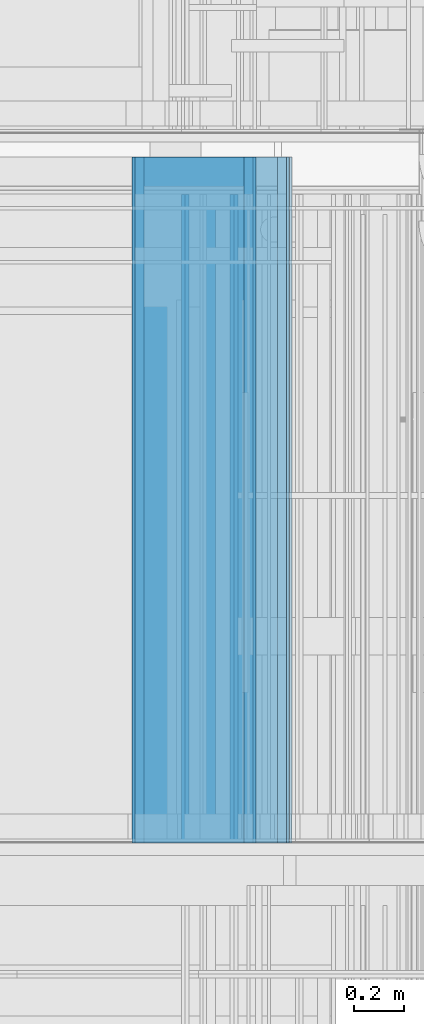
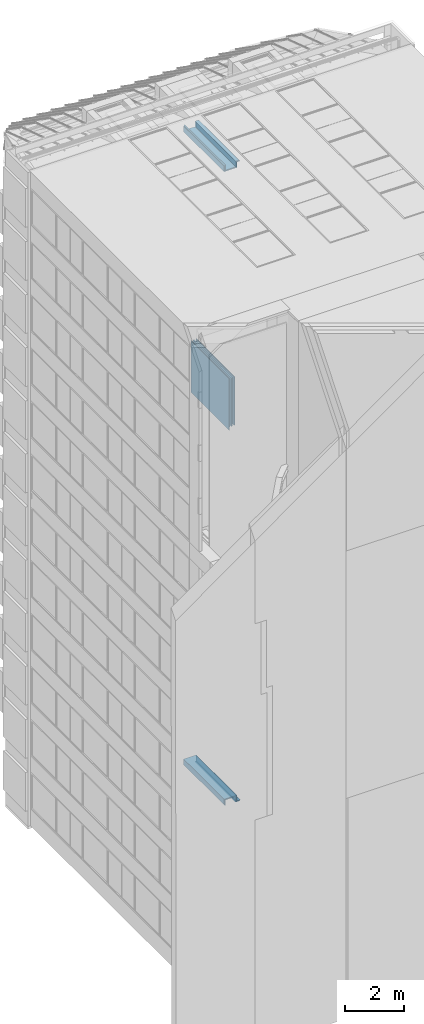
# One storey, part 93 of 583: 21 building element parts, 9 elements without a shape of their own.
"""IFC2X3 building model written with IfcOpenShell, lengths in metres."""

from ifc_helpers import new_model, entity, si_unit, converted_unit, derived_unit, money_unit, direction, frame, frame_2d, origin_with_axes, place, context, subcontext, project, spatial, polyline, rectangle, outline, extrude, material, type_object, element, aggregate, save


model = new_model("IFC2X3")

# Units and contexts
model_context = context("Model", 3, precision=1e-05, world=origin_with_axes(), true_north=direction((0.0, 1.0)))
body_context = subcontext(model_context, "Body", "Model", "MODEL_VIEW", scale=1.0)
ifc_project = project(units=[si_unit("LENGTHUNIT", "METRE"), si_unit("AREAUNIT", "SQUARE_METRE"), si_unit("VOLUMEUNIT", "CUBIC_METRE"), si_unit("ABSORBEDDOSEUNIT", "GRAY"), si_unit("AMOUNTOFSUBSTANCEUNIT", "MOLE"), si_unit("DOSEEQUIVALENTUNIT", "SIEVERT"), si_unit("ELECTRICCAPACITANCEUNIT", "FARAD"), si_unit("ELECTRICCHARGEUNIT", "COULOMB"), si_unit("ELECTRICCONDUCTANCEUNIT", "SIEMENS"), si_unit("ELECTRICCURRENTUNIT", "AMPERE"), si_unit("ELECTRICRESISTANCEUNIT", "OHM"), si_unit("ELECTRICVOLTAGEUNIT", "VOLT"), si_unit("ENERGYUNIT", "JOULE"), si_unit("FORCEUNIT", "NEWTON"), si_unit("FREQUENCYUNIT", "HERTZ"), si_unit("ILLUMINANCEUNIT", "LUX"), si_unit("INDUCTANCEUNIT", "HENRY"), si_unit("LUMINOUSFLUXUNIT", "LUMEN"), si_unit("LUMINOUSINTENSITYUNIT", "CANDELA"), si_unit("MAGNETICFLUXDENSITYUNIT", "TESLA"), si_unit("MAGNETICFLUXUNIT", "WEBER"), si_unit("MASSUNIT", "GRAM"), converted_unit("PLANEANGLEUNIT", "degree", entity("IfcReal", 0.0174532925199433), si_unit("PLANEANGLEUNIT", "RADIAN"), dimensions=[0, 0, 0, 0, 0, 0, 0]), si_unit("POWERUNIT", "WATT"), si_unit("PRESSUREUNIT", "PASCAL"), si_unit("RADIOACTIVITYUNIT", "BECQUEREL"), si_unit("SOLIDANGLEUNIT", "STERADIAN"), si_unit("THERMODYNAMICTEMPERATUREUNIT", "KELVIN"), si_unit("TIMEUNIT", "SECOND"), derived_unit("ACCELERATIONUNIT", [(si_unit("LENGTHUNIT", "METRE"), 1), (si_unit("TIMEUNIT", "SECOND"), -2)]), derived_unit("ANGULARVELOCITYUNIT", [(converted_unit("PLANEANGLEUNIT", "degree", entity("IfcReal", 0.0174532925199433), si_unit("PLANEANGLEUNIT", "RADIAN"), dimensions=[0, 0, 0, 0, 0, 0, 0]), 1), (si_unit("TIMEUNIT", "SECOND"), -1)]), derived_unit("CURVATUREUNIT", [(converted_unit("PLANEANGLEUNIT", "degree", entity("IfcReal", 0.0174532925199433), si_unit("PLANEANGLEUNIT", "RADIAN"), dimensions=[0, 0, 0, 0, 0, 0, 0]), 1), (si_unit("LENGTHUNIT", "METRE"), -1)]), derived_unit("DYNAMICVISCOSITYUNIT", [(si_unit("PRESSUREUNIT", "PASCAL"), 1), (si_unit("TIMEUNIT", "SECOND"), 1)]), derived_unit("HEATFLUXDENSITYUNIT", [(si_unit("POWERUNIT", "WATT"), 1), (si_unit("LENGTHUNIT", "METRE"), -2)]), derived_unit("HEATINGVALUEUNIT", [(si_unit("ENERGYUNIT", "JOULE"), 1), (si_unit("MASSUNIT", "GRAM"), -1)]), derived_unit("INTEGERCOUNTRATEUNIT", [(si_unit("TIMEUNIT", "SECOND"), -1)]), derived_unit("IONCONCENTRATIONUNIT", [(si_unit("MASSUNIT", "GRAM"), 1), (si_unit("VOLUMEUNIT", "CUBIC_METRE"), -1)]), derived_unit("ISOTHERMALMOISTURECAPACITYUNIT", [(si_unit("VOLUMEUNIT", "CUBIC_METRE"), 1), (si_unit("MASSUNIT", "GRAM"), -1)]), derived_unit("KINEMATICVISCOSITYUNIT", [(si_unit("AREAUNIT", "SQUARE_METRE"), 1), (si_unit("TIMEUNIT", "SECOND"), -1)]), derived_unit("LINEARFORCEUNIT", [(si_unit("FORCEUNIT", "NEWTON"), 1), (si_unit("LENGTHUNIT", "METRE"), -1)]), derived_unit("LINEARMOMENTUNIT", [(si_unit("FORCEUNIT", "NEWTON"), 1), (si_unit("LENGTHUNIT", "METRE"), -1)]), derived_unit("LINEARSTIFFNESSUNIT", [(si_unit("FORCEUNIT", "NEWTON"), 1), (si_unit("LENGTHUNIT", "METRE"), -1)]), derived_unit("LINEARVELOCITYUNIT", [(si_unit("LENGTHUNIT", "METRE"), 1), (si_unit("TIMEUNIT", "SECOND"), -1)]), derived_unit("LUMINOUSINTENSITYDISTRIBUTIONUNIT", [(si_unit("LUMINOUSINTENSITYUNIT", "CANDELA"), 1), (si_unit("LUMINOUSFLUXUNIT", "LUMEN"), -1)]), derived_unit("MASSDENSITYUNIT", [(si_unit("MASSUNIT", "GRAM"), 1), (si_unit("VOLUMEUNIT", "CUBIC_METRE"), -1)]), derived_unit("MASSFLOWRATEUNIT", [(si_unit("MASSUNIT", "GRAM"), 1), (si_unit("TIMEUNIT", "SECOND"), -1)]), derived_unit("MASSPERLENGTHUNIT", [(si_unit("MASSUNIT", "GRAM"), 1), (si_unit("LENGTHUNIT", "METRE"), -1)]), derived_unit("MODULUSOFELASTICITYUNIT", [(si_unit("FORCEUNIT", "NEWTON"), 1), (si_unit("AREAUNIT", "SQUARE_METRE"), -1)]), derived_unit("MODULUSOFLINEARSUBGRADEREACTIONUNIT", [(si_unit("FORCEUNIT", "NEWTON"), 1), (si_unit("LENGTHUNIT", "METRE"), -2)]), derived_unit("MODULUSOFROTATIONALSUBGRADEREACTIONUNIT", [(si_unit("FORCEUNIT", "NEWTON"), 1), (si_unit("LENGTHUNIT", "METRE"), 1)]), derived_unit("MODULUSOFSUBGRADEREACTIONUNIT", [(si_unit("FORCEUNIT", "NEWTON"), 1), (si_unit("VOLUMEUNIT", "CUBIC_METRE"), -1)]), derived_unit("MOISTUREDIFFUSIVITYUNIT", [(si_unit("VOLUMEUNIT", "CUBIC_METRE"), 1), (si_unit("TIMEUNIT", "SECOND"), -1)]), derived_unit("MOLECULARWEIGHTUNIT", [(si_unit("MASSUNIT", "GRAM"), 1), (si_unit("AMOUNTOFSUBSTANCEUNIT", "MOLE"), -1)]), derived_unit("PLANARFORCEUNIT", [(si_unit("FORCEUNIT", "NEWTON"), 1), (si_unit("LENGTHUNIT", "METRE"), -2)]), derived_unit("ROTATIONALFREQUENCYUNIT", [(si_unit("TIMEUNIT", "SECOND"), -1)]), derived_unit("ROTATIONALMASSUNIT", [(si_unit("MASSUNIT", "GRAM"), 1), (si_unit("LENGTHUNIT", "METRE"), 2)]), derived_unit("ROTATIONALSTIFFNESSUNIT", [(si_unit("FORCEUNIT", "NEWTON"), 1), (si_unit("LENGTHUNIT", "METRE"), 1), (converted_unit("PLANEANGLEUNIT", "degree", entity("IfcReal", 0.0174532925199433), si_unit("PLANEANGLEUNIT", "RADIAN"), dimensions=[0, 0, 0, 0, 0, 0, 0]), -1)]), derived_unit("SECTIONAREAINTEGRALUNIT", [(si_unit("LENGTHUNIT", "METRE"), 5)]), derived_unit("SECTIONMODULUSUNIT", [(si_unit("LENGTHUNIT", "METRE"), 3)]), derived_unit("SHEARMODULUSUNIT", [(si_unit("FORCEUNIT", "NEWTON"), 1), (si_unit("AREAUNIT", "SQUARE_METRE"), -1)]), derived_unit("SOUNDPOWERUNIT", [(si_unit("ENERGYUNIT", "JOULE"), 1), (si_unit("TIMEUNIT", "SECOND"), -1)]), derived_unit("SPECIFICHEATCAPACITYUNIT", [(si_unit("FORCEUNIT", "NEWTON"), 1), (si_unit("MASSUNIT", "GRAM"), -1), (si_unit("THERMODYNAMICTEMPERATUREUNIT", "KELVIN"), -1)]), derived_unit("TEMPERATUREGRADIENTUNIT", [(si_unit("THERMODYNAMICTEMPERATUREUNIT", "KELVIN"), 1), (si_unit("LENGTHUNIT", "METRE"), -1)]), derived_unit("THERMALADMITTANCEUNIT", [(si_unit("POWERUNIT", "WATT"), 1), (si_unit("AREAUNIT", "SQUARE_METRE"), -1), (si_unit("THERMODYNAMICTEMPERATUREUNIT", "KELVIN"), -1)]), derived_unit("THERMALCONDUCTANCEUNIT", [(si_unit("POWERUNIT", "WATT"), 1), (si_unit("LENGTHUNIT", "METRE"), -1), (si_unit("THERMODYNAMICTEMPERATUREUNIT", "KELVIN"), -1)]), derived_unit("THERMALEXPANSIONCOEFFICIENTUNIT", [(si_unit("THERMODYNAMICTEMPERATUREUNIT", "KELVIN"), -1)]), derived_unit("THERMALRESISTANCEUNIT", [(si_unit("AREAUNIT", "SQUARE_METRE"), 1), (si_unit("POWERUNIT", "WATT"), -1)]), derived_unit("THERMALTRANSMITTANCEUNIT", [(si_unit("POWERUNIT", "WATT"), 1), (si_unit("AREAUNIT", "SQUARE_METRE"), -1), (si_unit("THERMODYNAMICTEMPERATUREUNIT", "KELVIN"), -1)]), derived_unit("TORQUEUNIT", [(si_unit("FORCEUNIT", "NEWTON"), 1), (si_unit("LENGTHUNIT", "METRE"), 1)]), derived_unit("VAPORPERMEABILITYUNIT", [(si_unit("MASSUNIT", "GRAM"), 1), (si_unit("TIMEUNIT", "SECOND"), -1)]), derived_unit("VOLUMETRICFLOWRATEUNIT", [(si_unit("VOLUMEUNIT", "CUBIC_METRE"), 1), (si_unit("TIMEUNIT", "SECOND"), -1)]), derived_unit("WARPINGCONSTANTUNIT", [(si_unit("LENGTHUNIT", "METRE"), 6)]), derived_unit("WARPINGMOMENTUNIT", [(si_unit("FORCEUNIT", "NEWTON"), 1), (si_unit("LENGTHUNIT", "METRE"), 2)]), money_unit("GBP")], contexts=[model_context])

# Site, building, storey
site_placement = place(None, origin_with_axes())
site = spatial("IfcSite", under=ifc_project, at=site_placement, Name="Site", CompositionType="ELEMENT")
building_placement = place(site_placement, origin_with_axes())
building = spatial("IfcBuilding", under=site, at=building_placement, Name="Building01", CompositionType="ELEMENT")
storey_placement = place(building_placement, frame((0.0, 0.0, 20.78), z_axis=(0.0, 0.0, 1.0), x_axis=(1.0, 0.0, 0.0)))
storey = spatial("IfcBuildingStorey", under=building, at=storey_placement, Name="RL", CompositionType="ELEMENT", Elevation=20.78)

# Wall, building element parts
wall_type_1 = type_object("IfcWallType", Name="SHE_A-Walls_Type06d_ExternalWallInsulation_48mm", PredefinedType="NOTDEFINED")
wall_1_placement = place(storey_placement, frame((6.64418, 12.13, -20.51), z_axis=(0.0, 1.0, 0.0), x_axis=(-1.0, 0.0, 0.0)))
wall_1 = element("IfcWall", 1, at=wall_1_placement, inside=storey, type_object=wall_type_1, Name="6D", ObjectType="SHE_A-Walls_Type06d_ExternalWallInsulation_48mm")
ifc_material_1 = material(Name="A_BSUK_Insulation")
placement_1 = place(wall_1_placement, origin_with_axes())
building_element_part_1 = element("IfcBuildingElementPart", 2, at=placement_1, material=ifc_material_1, Name="1", context=body_context, shape_type="SweptSolid", body=[
    extrude(outline(polyline([(0.10818, 0.036), (-0.036, 0.036), (0.0, 0.0), (0.14418, 0.0), (0.10818, 0.036)])), origin_with_axes(), (0.0, 0.0, 1.0), 2.74),
])
ifc_material_2 = material(Name="A_BSUK_WallInternal_Finishes_Plasterboard")
building_element_part_2 = element("IfcBuildingElementPart", 3, at=placement_1, material=ifc_material_2, Name="3", context=body_context, shape_type="SweptSolid", body=[
    extrude(outline(polyline([(0.09618, 0.048), (-0.048, 0.048), (-0.035, 0.035), (0.10918, 0.035), (0.09618, 0.048)])), origin_with_axes(), (0.0, 0.0, 1.0), 2.74),
])
aggregate(wall_1, [building_element_part_1, building_element_part_2])

wall_2_placement = place(storey_placement, frame((6.5, 12.13, -20.51), z_axis=(0.0, 1.0, 0.0), x_axis=(0.0, 0.0, 1.0)))
wall_2 = element("IfcWall", 4, at=wall_2_placement, inside=storey, type_object=wall_type_1, Name="6D", ObjectType="SHE_A-Walls_Type06d_ExternalWallInsulation_48mm")
placement_2 = place(wall_2_placement, origin_with_axes())
building_element_part_3 = element("IfcBuildingElementPart", 5, at=placement_2, material=ifc_material_1, Name="1", context=body_context, shape_type="SweptSolid", body=[
    extrude(outline(polyline([(0.266, 0.036), (0.036, 0.036), (0.0, 0.0), (0.23, 0.0), (0.266, 0.036)])), origin_with_axes(), (0.0, 0.0, 1.0), 2.74),
])
building_element_part_4 = element("IfcBuildingElementPart", 6, at=placement_2, material=ifc_material_2, Name="3", context=body_context, shape_type="SweptSolid", body=[
    extrude(outline(polyline([(0.278, 0.048), (0.048, 0.048), (0.035, 0.035), (0.265, 0.035), (0.278, 0.048)])), origin_with_axes(), (0.0, 0.0, 1.0), 2.74),
])
aggregate(wall_2, [building_element_part_3, building_element_part_4])

wall_3_placement = place(storey_placement, frame((6.5, 12.13, -20.28), z_axis=(0.0, 1.0, 0.0), x_axis=(-1.0, 0.0, 0.0)))
wall_3 = element("IfcWall", 7, at=wall_3_placement, inside=storey, type_object=wall_type_1, Name="6D", ObjectType="SHE_A-Walls_Type06d_ExternalWallInsulation_48mm")
placement_3 = place(wall_3_placement, origin_with_axes())
building_element_part_5 = element("IfcBuildingElementPart", 8, at=placement_3, material=ifc_material_1, Name="1", context=body_context, shape_type="SweptSolid", body=[
    extrude(outline(polyline([(0.436, 0.036), (-0.036, 0.036), (0.0, 0.0), (0.4, 0.0), (0.436, 0.036)])), origin_with_axes(), (0.0, 0.0, 1.0), 2.74),
])
building_element_part_6 = element("IfcBuildingElementPart", 9, at=placement_3, material=ifc_material_2, Name="3", context=body_context, shape_type="SweptSolid", body=[
    extrude(outline(polyline([(0.448, 0.048), (-0.048, 0.048), (-0.035, 0.035), (0.435, 0.035), (0.448, 0.048)])), origin_with_axes(), (0.0, 0.0, 1.0), 2.74),
])
aggregate(wall_3, [building_element_part_5, building_element_part_6])

wall_4_placement = place(storey_placement, frame((6.1, 12.13, -20.28), z_axis=(0.0, 1.0, 0.0), x_axis=(0.0, 0.0, -1.0)))
wall_4 = element("IfcWall", 10, at=wall_4_placement, inside=storey, type_object=wall_type_1, Name="6D", ObjectType="SHE_A-Walls_Type06d_ExternalWallInsulation_48mm")
placement_4 = place(wall_4_placement, origin_with_axes())
building_element_part_7 = element("IfcBuildingElementPart", 11, at=placement_4, material=ifc_material_1, Name="1", context=body_context, shape_type="SweptSolid", body=[
    extrude(outline(polyline([(0.194, 0.036), (-0.036, 0.036), (0.0, 0.0), (0.23, 0.0), (0.194, 0.036)])), origin_with_axes(), (0.0, 0.0, 1.0), 2.74),
])
building_element_part_8 = element("IfcBuildingElementPart", 12, at=placement_4, material=ifc_material_2, Name="3", context=body_context, shape_type="SweptSolid", body=[
    extrude(outline(polyline([(0.182, 0.048), (-0.048, 0.048), (-0.035, 0.035), (0.195, 0.035), (0.182, 0.048)])), origin_with_axes(), (0.0, 0.0, 1.0), 2.74),
])
aggregate(wall_4, [building_element_part_7, building_element_part_8])

wall_5_placement = place(storey_placement, frame((6.1, 12.13, 5.93), z_axis=(0.0, 1.0, 0.0), x_axis=(0.0, 0.0, -1.0)))
wall_5 = element("IfcWall", 13, at=wall_5_placement, inside=storey, type_object=wall_type_1, Name="6D", ObjectType="SHE_A-Walls_Type06d_ExternalWallInsulation_48mm")
placement_5 = place(wall_5_placement, origin_with_axes())
building_element_part_9 = element("IfcBuildingElementPart", 14, at=placement_5, material=ifc_material_1, Name="1", context=body_context, shape_type="SweptSolid", body=[
    extrude(outline(polyline([(0.266, 0.036), (0.036, 0.036), (0.0, 0.0), (0.23, 0.0), (0.266, 0.036)])), origin_with_axes(), (0.0, 0.0, 1.0), 2.74),
])
building_element_part_10 = element("IfcBuildingElementPart", 15, at=placement_5, material=ifc_material_2, Name="3", context=body_context, shape_type="SweptSolid", body=[
    extrude(outline(polyline([(0.278, 0.048), (0.048, 0.048), (0.035, 0.035), (0.265, 0.035), (0.278, 0.048)])), origin_with_axes(), (0.0, 0.0, 1.0), 2.74),
])
aggregate(wall_5, [building_element_part_9, building_element_part_10])

wall_6_placement = place(storey_placement, frame((6.1, 12.13, 5.7), z_axis=(0.0, 1.0, 0.0), x_axis=(1.0, 0.0, 0.0)))
wall_6 = element("IfcWall", 16, at=wall_6_placement, inside=storey, type_object=wall_type_1, Name="6D", ObjectType="SHE_A-Walls_Type06d_ExternalWallInsulation_48mm")
placement_6 = place(wall_6_placement, origin_with_axes())
building_element_part_11 = element("IfcBuildingElementPart", 17, at=placement_6, material=ifc_material_1, Name="1", context=body_context, shape_type="SweptSolid", body=[
    extrude(outline(polyline([(0.436, 0.036), (-0.036, 0.036), (0.0, 0.0), (0.4, 0.0), (0.436, 0.036)])), origin_with_axes(), (0.0, 0.0, 1.0), 2.74),
])
building_element_part_12 = element("IfcBuildingElementPart", 18, at=placement_6, material=ifc_material_2, Name="3", context=body_context, shape_type="SweptSolid", body=[
    extrude(outline(polyline([(0.448, 0.048), (-0.048, 0.048), (-0.035, 0.035), (0.435, 0.035), (0.448, 0.048)])), origin_with_axes(), (0.0, 0.0, 1.0), 2.74),
])
aggregate(wall_6, [building_element_part_11, building_element_part_12])

wall_7_placement = place(storey_placement, frame((6.5, 12.13, 5.7), z_axis=(0.0, 1.0, 0.0), x_axis=(0.0, 0.0, 1.0)))
wall_7 = element("IfcWall", 19, at=wall_7_placement, inside=storey, type_object=wall_type_1, Name="6D", ObjectType="SHE_A-Walls_Type06d_ExternalWallInsulation_48mm")
placement_7 = place(wall_7_placement, origin_with_axes())
building_element_part_13 = element("IfcBuildingElementPart", 20, at=placement_7, material=ifc_material_1, Name="1", context=body_context, shape_type="SweptSolid", body=[
    extrude(outline(polyline([(0.194, 0.036), (-0.036, 0.036), (0.0, 0.0), (0.23, 0.0), (0.194, 0.036)])), origin_with_axes(), (0.0, 0.0, 1.0), 2.74),
])
building_element_part_14 = element("IfcBuildingElementPart", 21, at=placement_7, material=ifc_material_2, Name="3", context=body_context, shape_type="SweptSolid", body=[
    extrude(outline(polyline([(0.182, 0.048), (-0.048, 0.048), (-0.035, 0.035), (0.195, 0.035), (0.182, 0.048)])), origin_with_axes(), (0.0, 0.0, 1.0), 2.74),
])
aggregate(wall_7, [building_element_part_13, building_element_part_14])

wall_8_placement = place(storey_placement, frame((6.5, 12.13, 5.93), z_axis=(0.0, 1.0, 0.0), x_axis=(1.0, 0.0, 0.0)))
wall_8 = element("IfcWall", 22, at=wall_8_placement, inside=storey, type_object=wall_type_1, Name="6D", ObjectType="SHE_A-Walls_Type06d_ExternalWallInsulation_48mm")
placement_8 = place(wall_8_placement, origin_with_axes())
building_element_part_15 = element("IfcBuildingElementPart", 23, at=placement_8, material=ifc_material_1, Name="1", context=body_context, shape_type="SweptSolid", body=[
    extrude(outline(polyline([(0.170326, 0.036), (0.036, 0.036), (0.0, 0.0), (0.134326, 0.0), (0.170326, 0.036)])), origin_with_axes(), (0.0, 0.0, 1.0), 2.74),
])
building_element_part_16 = element("IfcBuildingElementPart", 24, at=placement_8, material=ifc_material_2, Name="3", context=body_context, shape_type="SweptSolid", body=[
    extrude(outline(polyline([(0.182326, 0.048), (0.048, 0.048), (0.035, 0.035), (0.169326, 0.035), (0.182326, 0.048)])), origin_with_axes(), (0.0, 0.0, 1.0), 2.74),
])
aggregate(wall_8, [building_element_part_15, building_element_part_16])

wall_type_2 = type_object("IfcWallType", Name="SHE_A-Walls_Type01c_Partywall_225mm_twin_tall", PredefinedType="NOTDEFINED")
wall_9_placement = place(storey_placement, frame((6.337, 12.13, -2.95), z_axis=(0.0, 1.0, 0.0), x_axis=(0.0, 0.0, -1.0)))
wall_9 = element("IfcWall", 25, at=wall_9_placement, inside=storey, type_object=wall_type_2, Name="1C", ObjectType="SHE_A-Walls_Type01c_Partywall_225mm_twin_tall")
placement_9 = place(wall_9_placement, origin_with_axes())
building_element_part_17 = element("IfcBuildingElementPart", 26, at=placement_9, material=ifc_material_1, Name="1", context=body_context, shape_type="SweptSolid", body=[
    extrude(rectangle(XDim=2.0, YDim=0.05, at=frame_2d((1.0, -0.025), x_axis=(-1.0, 0.0))), origin_with_axes(), (0.0, 0.0, 1.0), 2.59),
])
building_element_part_18 = element("IfcBuildingElementPart", 27, at=placement_9, material=ifc_material_2, Name="3", context=body_context, shape_type="SweptSolid", body=[
    extrude(rectangle(XDim=2.13, YDim=0.015, at=frame_2d((1.065, 0.0795), x_axis=(-1.0, 0.0))), origin_with_axes(), (0.0, 0.0, 1.0), 2.59),
])
building_element_part_19 = element("IfcBuildingElementPart", 28, at=placement_9, material=ifc_material_2, Name="4", context=body_context, shape_type="SweptSolid", body=[
    extrude(rectangle(XDim=2.0, YDim=0.015, at=frame_2d((1.0, 0.0645), x_axis=(-1.0, 0.0))), origin_with_axes(), (0.0, 0.0, 1.0), 2.59),
])
building_element_part_20 = element("IfcBuildingElementPart", 29, at=placement_9, material=ifc_material_2, Name="5", context=body_context, shape_type="SweptSolid", body=[
    extrude(rectangle(XDim=2.0, YDim=0.015, at=frame_2d((1.0, -0.1155), x_axis=(-1.0, 0.0))), origin_with_axes(), (0.0, 0.0, 1.0), 2.59),
])
building_element_part_21 = element("IfcBuildingElementPart", 30, at=placement_9, material=ifc_material_2, Name="6", context=body_context, shape_type="SweptSolid", body=[
    extrude(outline(polyline([(2.0, -0.123), (-0.015, -0.123), (-0.015, -0.138), (1.985, -0.138), (2.0, -0.123)])), origin_with_axes(), (0.0, 0.0, 1.0), 2.59),
])
aggregate(wall_9, [building_element_part_17, building_element_part_18, building_element_part_19, building_element_part_20, building_element_part_21])

save(model, "model.ifc")
